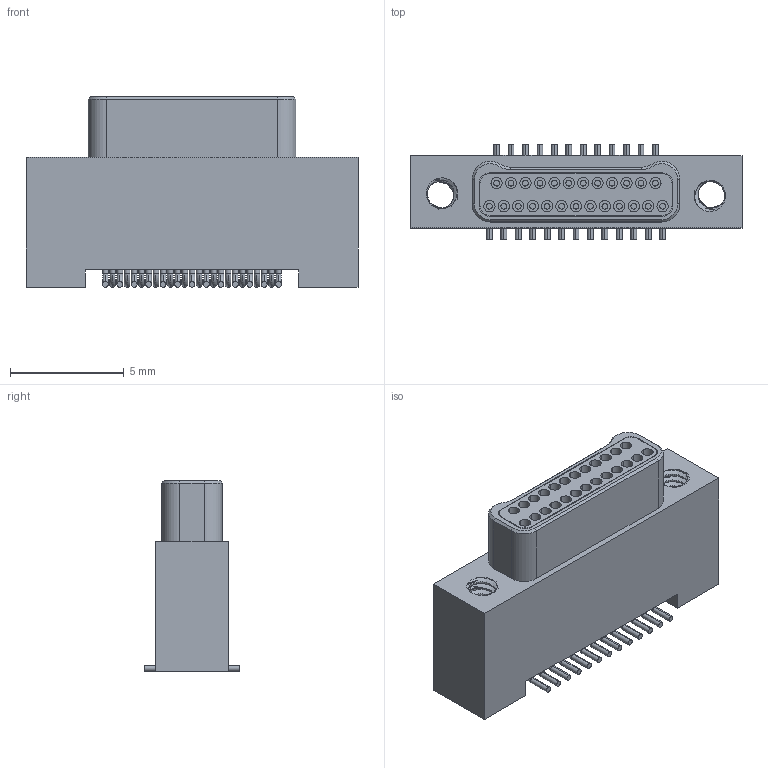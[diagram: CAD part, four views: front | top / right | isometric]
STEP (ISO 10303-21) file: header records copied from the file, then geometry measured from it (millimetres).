
FILE_DESCRIPTION (( 'STEP AP214' ), '1' );
FILE_NAME ('A28200-025 REV G.STEP', '2015-11-04T16:14:51', ( '' ), ( '' ), 'SwSTEP 2.0', 'SolidWorks 2015', '' );
FILE_SCHEMA (( 'AUTOMOTIVE_DESIGN' ));
Length unit declared in the file: inch
Products named in the file (1): A28200-025
Bounding box: 14.61 x 4.19 x 8.38 mm (x, y, z)
Volume: 264.6 mm3; surface area: 774.4 mm2
Topology: 1 solids, 1 shells, 698 faces, 1681 edges, 1100 vertices
Faces by surface type: cylinder 338, plane 242, bspline 54, torus 50, cone 14
Entity records: 29633 total; most frequent: CARTESIAN_POINT 12530, ORIENTED_EDGE 3362, DIRECTION 3347, EDGE_CURVE 1681, AXIS2_PLACEMENT_3D 1295, VERTEX_POINT 1100, EDGE_LOOP 817, VECTOR 757
